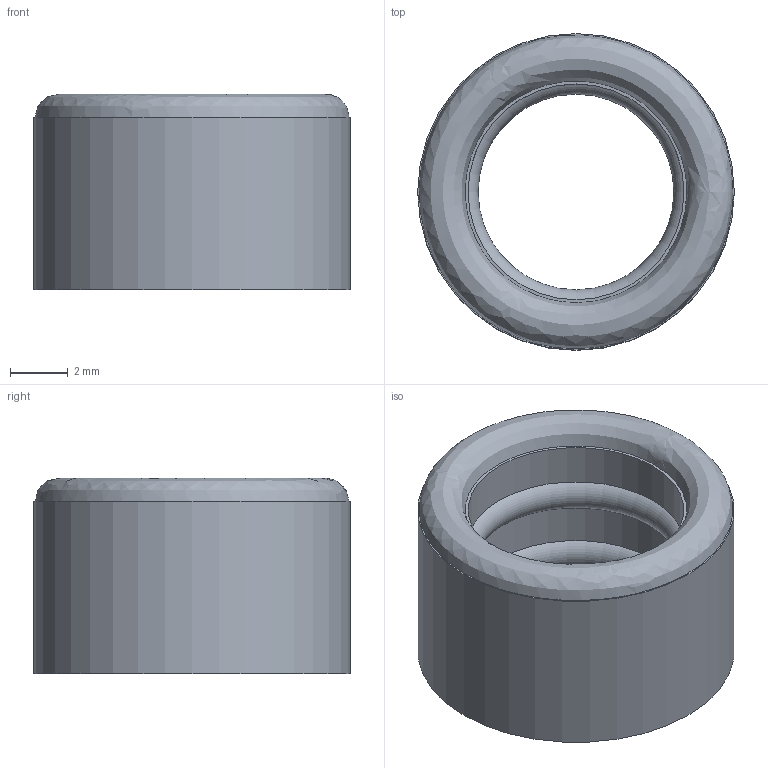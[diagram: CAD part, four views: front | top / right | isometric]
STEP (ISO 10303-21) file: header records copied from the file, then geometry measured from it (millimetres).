
FILE_DESCRIPTION(('FreeCAD Model'),'2;1');
FILE_NAME('Open CASCADE Shape Model','2026-09-29T21:45:26',('Author'),( ''),'Open CASCADE STEP processor 7.8','FreeCAD','Unknown');
FILE_SCHEMA(('AUTOMOTIVE_DESIGN { 1 0 10303 214 1 1 1 1 }'));
Length unit declared in the file: millimetre
Products named in the file (1): cable_seal_b6p8_L6p8
Bounding box: 11 x 11 x 6.8 mm (x, y, z)
Volume: 347.5 mm3; surface area: 486.9 mm2
Topology: 1 solids, 1 shells, 10 faces, 17 edges, 10 vertices
Faces by surface type: cylinder 4, plane 3, torus 2, bspline 1
Full cylindrical faces by diameter (mm): 7.5 x3, 11 x1
Entity records: 434 total; most frequent: CARTESIAN_POINT 231, DIRECTION 44, ORIENTED_EDGE 34, AXIS2_PLACEMENT_3D 20, EDGE_CURVE 17, FACE_BOUND 13, EDGE_LOOP 13, ADVANCED_FACE 10
